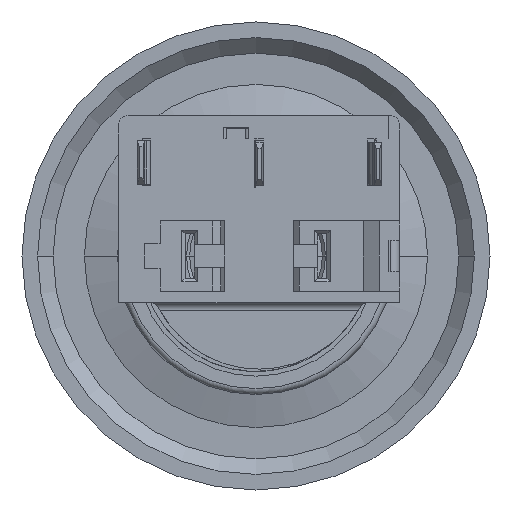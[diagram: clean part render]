
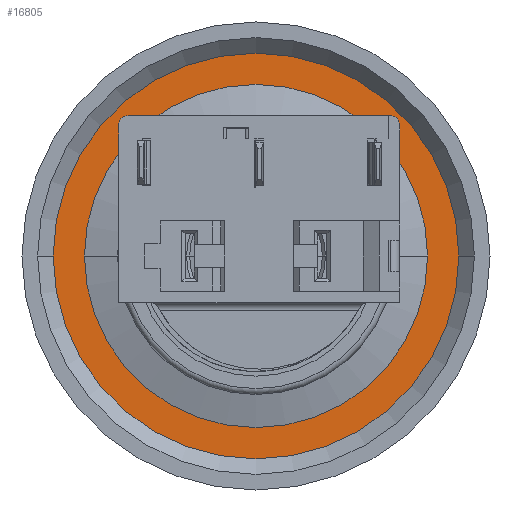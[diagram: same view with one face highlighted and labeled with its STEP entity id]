
A CAD part, front view. The second image highlights one B-rep face of the part: STEP entity #16805.
In plain terms, the highlighted planar face has unit normal (0, -1, 0).
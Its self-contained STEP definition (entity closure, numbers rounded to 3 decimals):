
#5831=CARTESIAN_POINT('',(0.,17.6,0.));
#5832=DIRECTION('',(0.,1.,0.));
#5833=DIRECTION('',(-1.,0.,0.));
#5834=AXIS2_PLACEMENT_3D('',#5831,#5832,#5833);
#5844=CARTESIAN_POINT('',(0.,17.6,0.));
#5845=DIRECTION('',(0.,-1.,0.));
#5846=DIRECTION('',(-1.,0.,0.));
#5847=AXIS2_PLACEMENT_3D('',#5844,#5845,#5846);
#5849=CARTESIAN_POINT('',(0.,17.6,0.));
#5850=DIRECTION('',(0.,1.,0.));
#5851=DIRECTION('',(-1.,0.,0.));
#5852=AXIS2_PLACEMENT_3D('',#5849,#5850,#5851);
#5854=CARTESIAN_POINT('',(0.,17.6,0.));
#5855=DIRECTION('',(0.,-1.,0.));
#5856=DIRECTION('',(-1.,0.,0.));
#5857=AXIS2_PLACEMENT_3D('',#5854,#5855,#5856);
#7089=CARTESIAN_POINT('',(-13.,17.6,0.));
#7090=VERTEX_POINT('',#7089);
#7091=CARTESIAN_POINT('',(-11.,17.6,0.));
#7093=VERTEX_POINT('',#7091);
#7107=CARTESIAN_POINT('',(13.,17.6,0.));
#7108=VERTEX_POINT('',#7107);
#7109=CARTESIAN_POINT('',(11.,17.6,0.));
#7111=VERTEX_POINT('',#7109);
#16790=CARTESIAN_POINT('',(0.,17.6,0.));
#16791=DIRECTION('',(0.,1.,0.));
#16792=DIRECTION('',(1.,0.,0.));
#16793=AXIS2_PLACEMENT_3D('',#16790,#16791,#16792);
#16794=PLANE('',#16793);
#16796=ORIENTED_EDGE('',*,*,#16795,.T.);
#16798=ORIENTED_EDGE('',*,*,#16797,.F.);
#16799=EDGE_LOOP('',(#16796,#16798));
#16800=FACE_OUTER_BOUND('',#16799,.F.);
#16801=ORIENTED_EDGE('',*,*,#16785,.T.);
#16802=ORIENTED_EDGE('',*,*,#16769,.F.);
#16803=EDGE_LOOP('',(#16801,#16802));
#16804=FACE_BOUND('',#16803,.F.);
#16805=ADVANCED_FACE('',(#16800,#16804),#16794,.F.);
#5835=CIRCLE('',#5834,11.);
#5848=CIRCLE('',#5847,11.);
#5853=CIRCLE('',#5852,13.);
#5858=CIRCLE('',#5857,13.);
#16769=EDGE_CURVE('',#7093,#7111,#5835,.T.);
#16785=EDGE_CURVE('',#7093,#7111,#5848,.T.);
#16795=EDGE_CURVE('',#7090,#7108,#5853,.T.);
#16797=EDGE_CURVE('',#7090,#7108,#5858,.T.);
